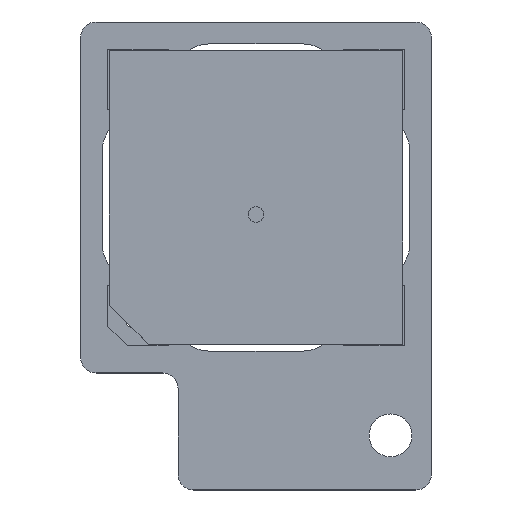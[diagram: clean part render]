
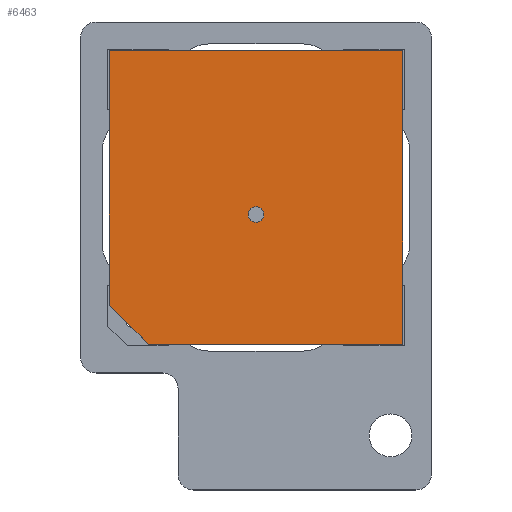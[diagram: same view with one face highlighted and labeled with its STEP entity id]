
A CAD part, top view. The second image highlights one B-rep face of the part: STEP entity #6463.
In plain terms, the highlighted planar face has unit normal (0, 0, 1).
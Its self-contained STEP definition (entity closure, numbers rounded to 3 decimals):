
#108 = VECTOR ( 'NONE', #3569, 1000. ) ;
#180 = ORIENTED_EDGE ( 'NONE', *, *, #5649, .T. ) ;
#182 = DIRECTION ( 'NONE',  ( 1., 0., 0. ) ) ;
#270 = VERTEX_POINT ( 'NONE', #11080 ) ;
#466 = VECTOR ( 'NONE', #4134, 1000. ) ;
#732 = CARTESIAN_POINT ( 'NONE',  ( -20.012, 9.089, 1.37 ) ) ;
#948 = FACE_OUTER_BOUND ( 'NONE', #5056, .T. ) ;
#1088 = DIRECTION ( 'NONE',  ( -1., 0., 0. ) ) ;
#1736 = VERTEX_POINT ( 'NONE', #5932 ) ;
#1831 = CIRCLE ( 'NONE', #5577, 0.4 ) ;
#2268 = EDGE_CURVE ( 'NONE', #3558, #1736, #4913, .T. ) ;
#2647 = ORIENTED_EDGE ( 'NONE', *, *, #8611, .T. ) ;
#2863 = DIRECTION ( 'NONE',  ( 1., 0., 0. ) ) ;
#3003 = AXIS2_PLACEMENT_3D ( 'NONE', #7893, #7962, #2863 ) ;
#3028 = LINE ( 'NONE', #4049, #4262 ) ;
#3365 = DIRECTION ( 'NONE',  ( 1., 0., 0. ) ) ;
#3558 = VERTEX_POINT ( 'NONE', #11568 ) ;
#3569 = DIRECTION ( 'NONE',  ( 0.707, -0.707, 0. ) ) ;
#4046 = EDGE_CURVE ( 'NONE', #6621, #6621, #1831, .T. ) ;
#4049 = CARTESIAN_POINT ( 'NONE',  ( -18.012, 7.089, 1.37 ) ) ;
#4134 = DIRECTION ( 'NONE',  ( 0., -1., 0. ) ) ;
#4226 = CARTESIAN_POINT ( 'NONE',  ( -18.012, 7.089, 1.37 ) ) ;
#4262 = VECTOR ( 'NONE', #182, 1000. ) ;
#4387 = VECTOR ( 'NONE', #12778, 1000. ) ;
#4564 = LINE ( 'NONE', #4749, #4387 ) ;
#4749 = CARTESIAN_POINT ( 'NONE',  ( -4.962, 22.139, 1.37 ) ) ;
#4806 = VERTEX_POINT ( 'NONE', #4226 ) ;
#4913 = LINE ( 'NONE', #5963, #466 ) ;
#5010 = LINE ( 'NONE', #7227, #8125 ) ;
#5056 = EDGE_LOOP ( 'NONE', ( #11848, #11323, #6731, #2647, #180 ) ) ;
#5577 = AXIS2_PLACEMENT_3D ( 'NONE', #8333, #12351, #3365 ) ;
#5649 = EDGE_CURVE ( 'NONE', #4806, #270, #3028, .T. ) ;
#5932 = CARTESIAN_POINT ( 'NONE',  ( -20.012, 9.089, 1.37 ) ) ;
#5963 = CARTESIAN_POINT ( 'NONE',  ( -20.012, 22.139, 1.37 ) ) ;
#6463 = ADVANCED_FACE ( 'NONE', ( #948, #8082 ), #11123, .T. ) ;
#6621 = VERTEX_POINT ( 'NONE', #10850 ) ;
#6731 = ORIENTED_EDGE ( 'NONE', *, *, #2268, .T. ) ;
#7227 = CARTESIAN_POINT ( 'NONE',  ( -20.012, 22.139, 1.37 ) ) ;
#7893 = CARTESIAN_POINT ( 'NONE',  ( 0., 0., 1.37 ) ) ;
#7962 = DIRECTION ( 'NONE',  ( 0., 0., 1. ) ) ;
#7970 = EDGE_CURVE ( 'NONE', #270, #8836, #4564, .T. ) ;
#8082 = FACE_BOUND ( 'NONE', #10154, .T. ) ;
#8125 = VECTOR ( 'NONE', #1088, 1000. ) ;
#8333 = CARTESIAN_POINT ( 'NONE',  ( -12.487, 13.739, 1.37 ) ) ;
#8611 = EDGE_CURVE ( 'NONE', #1736, #4806, #8733, .T. ) ;
#8733 = LINE ( 'NONE', #732, #108 ) ;
#8836 = VERTEX_POINT ( 'NONE', #9314 ) ;
#9221 = ORIENTED_EDGE ( 'NONE', *, *, #4046, .F. ) ;
#9314 = CARTESIAN_POINT ( 'NONE',  ( -4.962, 22.139, 1.37 ) ) ;
#10154 = EDGE_LOOP ( 'NONE', ( #9221 ) ) ;
#10850 = CARTESIAN_POINT ( 'NONE',  ( -12.087, 13.739, 1.37 ) ) ;
#11080 = CARTESIAN_POINT ( 'NONE',  ( -4.962, 7.089, 1.37 ) ) ;
#11123 = PLANE ( 'NONE',  #3003 ) ;
#11323 = ORIENTED_EDGE ( 'NONE', *, *, #11328, .T. ) ;
#11328 = EDGE_CURVE ( 'NONE', #8836, #3558, #5010, .T. ) ;
#11568 = CARTESIAN_POINT ( 'NONE',  ( -20.012, 22.139, 1.37 ) ) ;
#11848 = ORIENTED_EDGE ( 'NONE', *, *, #7970, .T. ) ;
#12351 = DIRECTION ( 'NONE',  ( 0., 0., 1. ) ) ;
#12778 = DIRECTION ( 'NONE',  ( 0., 1., 0. ) ) ;
